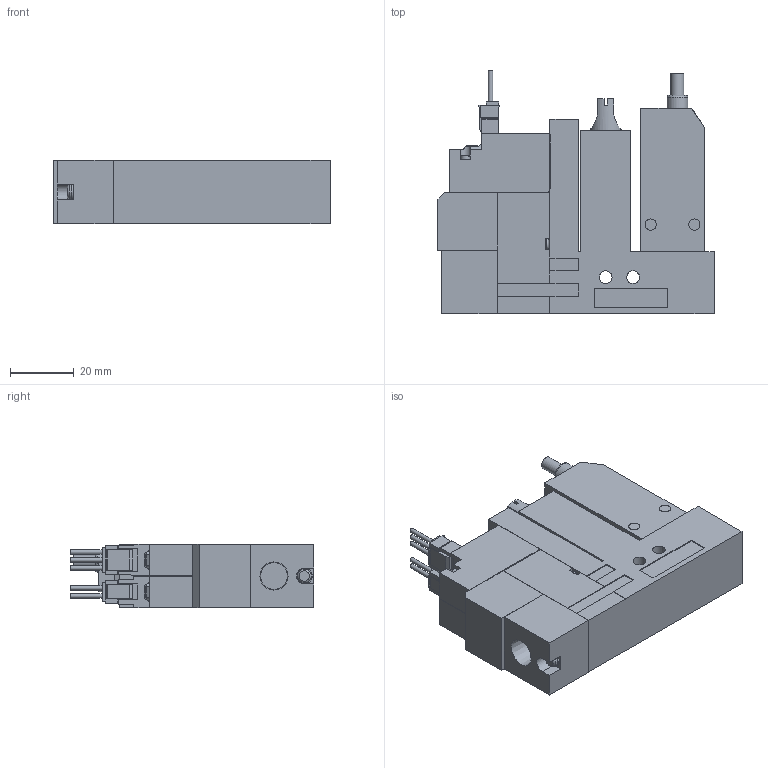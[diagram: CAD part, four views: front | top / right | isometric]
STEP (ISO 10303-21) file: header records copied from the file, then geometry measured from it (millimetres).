
FILE_DESCRIPTION(('STEP AP203'),'1');
FILE_NAME('ABS_ABPL5WLR.stp','2025-02-17T00:12:30',(' '),(' '),'Spatial InterOp 3D',' ',' ');
FILE_SCHEMA(('CONFIG_CONTROL_DESIGN'));
Length unit declared in the file: millimetre
Products named in the file (5): BMC22S※※※※ABS_ABPL5WLR; Solenoid valve W; Pressure sensor ABSL; Unit L; Base SR10R
Assembly tree (4 placements, depth 2):
  BMC22S※※※※ABS_ABPL5WLR
    Solenoid valve W
    Pressure sensor ABSL
    Unit L
    Base SR10R
Bounding box: 86.6 x 76.45 x 20 mm (x, y, z)
Volume: 89904.3 mm3; surface area: 24688.2 mm2
Topology: 4 solids, 4 shells, 359 faces, 951 edges, 628 vertices
Faces by surface type: plane 308, cylinder 41, cone 6, torus 4
Full cylindrical faces by diameter (mm): 1.4 x5, 2.5 x1, 3 x4, 3.5 x6, 3.6 x1, 4 x3, 4.134 x1, 6 x1, 6.5 x1
Entity records: 11088 total; most frequent: CARTESIAN_POINT 1989, ORIENTED_EDGE 1818, DIRECTION 1756, EDGE_CURVE 909, LINE 782, VECTOR 782, VERTEX_POINT 620, AXIS2_PLACEMENT_3D 487
